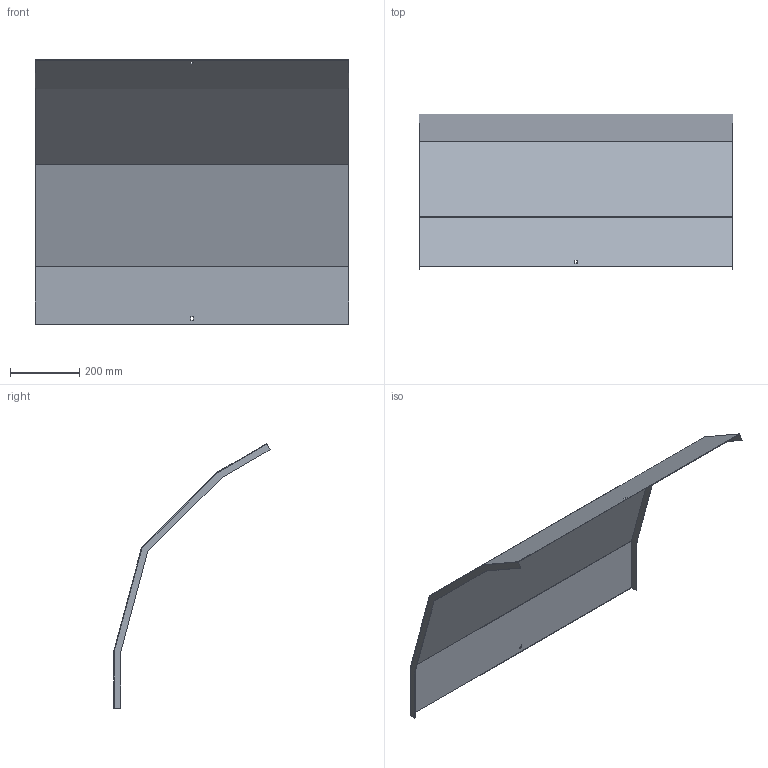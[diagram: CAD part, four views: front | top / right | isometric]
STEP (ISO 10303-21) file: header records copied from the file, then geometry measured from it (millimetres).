
FILE_DESCRIPTION (( 'STEP AP214' ), '1' );
FILE_NAME ('41N5D900.step', '2025-02-21T10:38:28', ( '' ), ( '' ), 'SwSTEP 2.0', 'SolidWorks 2023', '' );
FILE_SCHEMA (( 'AUTOMOTIVE_DESIGN' ));
Length unit declared in the file: millimetre
Products named in the file (1): 41N5D900
Bounding box: 903 x 449.97 x 762.06 mm (x, y, z)
Volume: 1330913.9 mm3; surface area: 1780239.3 mm2
Topology: 1 solids, 1 shells, 30 faces, 84 edges, 56 vertices
Faces by surface type: plane 30
Entity records: 979 total; most frequent: CARTESIAN_POINT 171, ORIENTED_EDGE 168, DIRECTION 146, EDGE_CURVE 84, LINE 84, VECTOR 84, VERTEX_POINT 56, EDGE_LOOP 34
